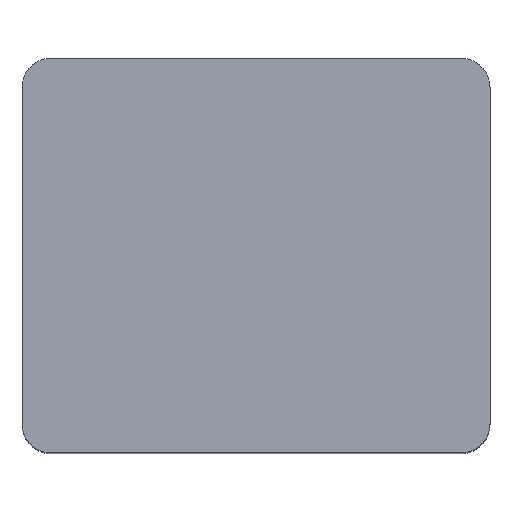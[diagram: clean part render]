
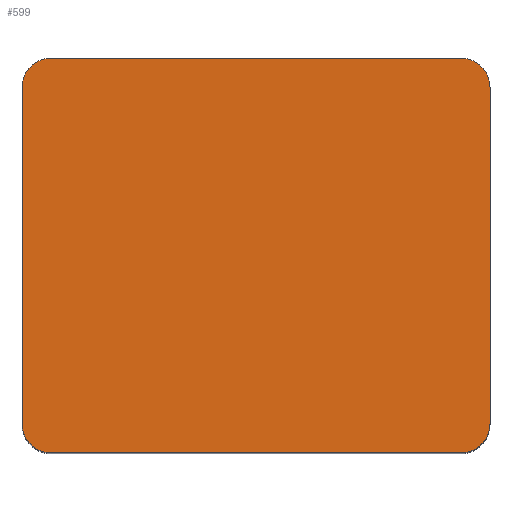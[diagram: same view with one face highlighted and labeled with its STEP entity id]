
A CAD part, top view. The second image highlights one B-rep face of the part: STEP entity #599.
In plain terms, the highlighted planar face has unit normal (0, 0, 1).
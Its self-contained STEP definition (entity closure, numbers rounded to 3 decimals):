
#11 = ORIENTED_EDGE ( 'NONE', *, *, #1616, .T. ) ;
#46 = CARTESIAN_POINT ( 'NONE',  ( -14., 11.5, 35. ) ) ;
#51 = CIRCLE ( 'NONE', #1527, 2. ) ;
#104 = VERTEX_POINT ( 'NONE', #584 ) ;
#109 = CARTESIAN_POINT ( 'NONE',  ( -16., -13.5, 35. ) ) ;
#134 = LINE ( 'NONE', #414, #801 ) ;
#188 = CARTESIAN_POINT ( 'NONE',  ( -14., -13.5, 35. ) ) ;
#220 = AXIS2_PLACEMENT_3D ( 'NONE', #301, #1657, #975 ) ;
#227 = ORIENTED_EDGE ( 'NONE', *, *, #376, .T. ) ;
#248 = ORIENTED_EDGE ( 'NONE', *, *, #1386, .T. ) ;
#288 = ORIENTED_EDGE ( 'NONE', *, *, #447, .T. ) ;
#301 = CARTESIAN_POINT ( 'NONE',  ( 14., -11.5, 35. ) ) ;
#311 = CIRCLE ( 'NONE', #1555, 2. ) ;
#327 = DIRECTION ( 'NONE',  ( 0., -1., 0. ) ) ;
#348 = ORIENTED_EDGE ( 'NONE', *, *, #821, .T. ) ;
#369 = PLANE ( 'NONE',  #1754 ) ;
#376 = EDGE_CURVE ( 'NONE', #104, #884, #1634, .T. ) ;
#388 = CARTESIAN_POINT ( 'NONE',  ( 14., -13.5, 35. ) ) ;
#414 = CARTESIAN_POINT ( 'NONE',  ( -16., 13.5, 35. ) ) ;
#422 = AXIS2_PLACEMENT_3D ( 'NONE', #828, #691, #1536 ) ;
#447 = EDGE_CURVE ( 'NONE', #1474, #519, #1562, .T. ) ;
#472 = VERTEX_POINT ( 'NONE', #188 ) ;
#501 = EDGE_LOOP ( 'NONE', ( #1145, #248, #1735, #227, #664, #11, #288, #348 ) ) ;
#504 = LINE ( 'NONE', #109, #573 ) ;
#516 = CARTESIAN_POINT ( 'NONE',  ( 0., 0., 35. ) ) ;
#519 = VERTEX_POINT ( 'NONE', #1694 ) ;
#537 = CARTESIAN_POINT ( 'NONE',  ( 16., 13.5, 35. ) ) ;
#573 = VECTOR ( 'NONE', #1774, 1000. ) ;
#584 = CARTESIAN_POINT ( 'NONE',  ( 16., 11.5, 35. ) ) ;
#599 = ADVANCED_FACE ( 'NONE', ( #787 ), #369, .T. ) ;
#619 = DIRECTION ( 'NONE',  ( 1., 0., 0. ) ) ;
#664 = ORIENTED_EDGE ( 'NONE', *, *, #1169, .T. ) ;
#691 = DIRECTION ( 'NONE',  ( 0., 0., 1. ) ) ;
#694 = VERTEX_POINT ( 'NONE', #1249 ) ;
#787 = FACE_OUTER_BOUND ( 'NONE', #501, .T. ) ;
#801 = VECTOR ( 'NONE', #1680, 1000. ) ;
#821 = EDGE_CURVE ( 'NONE', #519, #472, #311, .T. ) ;
#828 = CARTESIAN_POINT ( 'NONE',  ( 14., 11.5, 35. ) ) ;
#884 = VERTEX_POINT ( 'NONE', #1691 ) ;
#898 = DIRECTION ( 'NONE',  ( 0., 0., 1. ) ) ;
#975 = DIRECTION ( 'NONE',  ( 1., 0., 0. ) ) ;
#1044 = DIRECTION ( 'NONE',  ( 0., 1., 0. ) ) ;
#1046 = EDGE_CURVE ( 'NONE', #694, #104, #1598, .T. ) ;
#1067 = CIRCLE ( 'NONE', #220, 2. ) ;
#1105 = CARTESIAN_POINT ( 'NONE',  ( -14., 13.5, 35. ) ) ;
#1145 = ORIENTED_EDGE ( 'NONE', *, *, #1707, .T. ) ;
#1146 = DIRECTION ( 'NONE',  ( 1., 0., 0. ) ) ;
#1169 = EDGE_CURVE ( 'NONE', #884, #1194, #134, .T. ) ;
#1174 = CARTESIAN_POINT ( 'NONE',  ( -16., 13.5, 35. ) ) ;
#1194 = VERTEX_POINT ( 'NONE', #1105 ) ;
#1249 = CARTESIAN_POINT ( 'NONE',  ( 16., -11.5, 35. ) ) ;
#1250 = CARTESIAN_POINT ( 'NONE',  ( -16., 11.5, 35. ) ) ;
#1299 = DIRECTION ( 'NONE',  ( 0., 0., 1. ) ) ;
#1311 = VERTEX_POINT ( 'NONE', #388 ) ;
#1386 = EDGE_CURVE ( 'NONE', #1311, #694, #1067, .T. ) ;
#1409 = VECTOR ( 'NONE', #1044, 1000. ) ;
#1453 = DIRECTION ( 'NONE',  ( 1., 0., 0. ) ) ;
#1474 = VERTEX_POINT ( 'NONE', #1250 ) ;
#1527 = AXIS2_PLACEMENT_3D ( 'NONE', #46, #898, #619 ) ;
#1536 = DIRECTION ( 'NONE',  ( 1., 0., 0. ) ) ;
#1555 = AXIS2_PLACEMENT_3D ( 'NONE', #1701, #1299, #1146 ) ;
#1562 = LINE ( 'NONE', #1174, #1692 ) ;
#1598 = LINE ( 'NONE', #537, #1409 ) ;
#1600 = DIRECTION ( 'NONE',  ( 0., 0., 1. ) ) ;
#1616 = EDGE_CURVE ( 'NONE', #1194, #1474, #51, .T. ) ;
#1634 = CIRCLE ( 'NONE', #422, 2. ) ;
#1657 = DIRECTION ( 'NONE',  ( 0., 0., 1. ) ) ;
#1680 = DIRECTION ( 'NONE',  ( -1., 0., 0. ) ) ;
#1691 = CARTESIAN_POINT ( 'NONE',  ( 14., 13.5, 35. ) ) ;
#1692 = VECTOR ( 'NONE', #327, 1000. ) ;
#1694 = CARTESIAN_POINT ( 'NONE',  ( -16., -11.5, 35. ) ) ;
#1701 = CARTESIAN_POINT ( 'NONE',  ( -14., -11.5, 35. ) ) ;
#1707 = EDGE_CURVE ( 'NONE', #472, #1311, #504, .T. ) ;
#1735 = ORIENTED_EDGE ( 'NONE', *, *, #1046, .T. ) ;
#1754 = AXIS2_PLACEMENT_3D ( 'NONE', #516, #1600, #1453 ) ;
#1774 = DIRECTION ( 'NONE',  ( 1., 0., 0. ) ) ;
